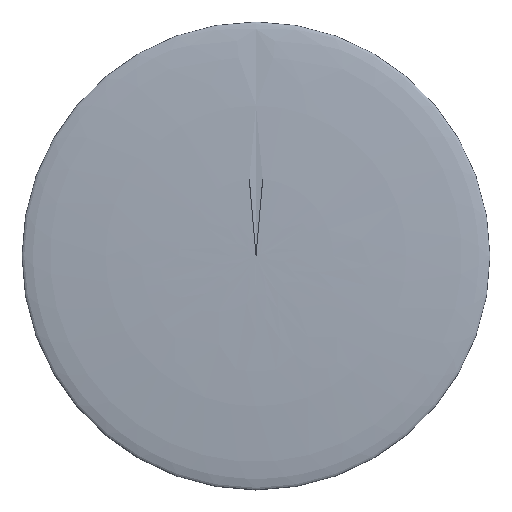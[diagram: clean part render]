
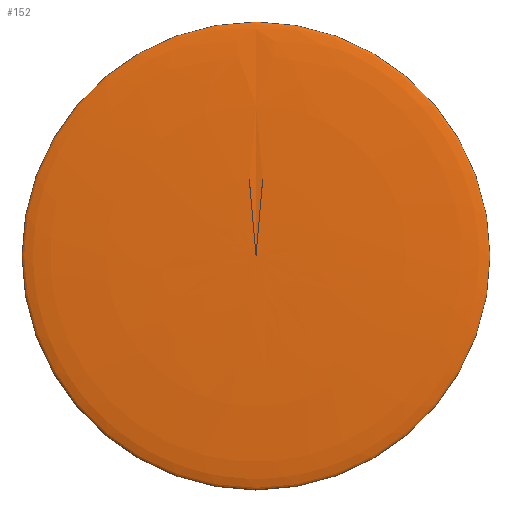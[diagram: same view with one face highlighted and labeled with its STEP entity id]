
A CAD part, top view. The second image highlights one B-rep face of the part: STEP entity #152.
In plain terms, the highlighted face is a revolution surface.
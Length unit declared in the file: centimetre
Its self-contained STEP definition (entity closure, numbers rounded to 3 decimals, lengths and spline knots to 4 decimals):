
#104=ELLIPSE('',#159,1.75,0.1);
#105=(
BOUNDED_CURVE()
B_SPLINE_CURVE(2,(#188,#189,#190),.UNSPECIFIED.,.F.,.U.)
B_SPLINE_CURVE_WITH_KNOTS((3,3),(0.,1.5708),.UNSPECIFIED.)
CURVE()
GEOMETRIC_REPRESENTATION_ITEM()
RATIONAL_B_SPLINE_CURVE((1.,0.707,1.))
REPRESENTATION_ITEM('')
);
#106=AXIS1_PLACEMENT('',#187,#171);
#107=SURFACE_OF_REVOLUTION('',#105,#106);
#112=VERTEX_POINT('',#192);
#113=VERTEX_POINT('',#193);
#117=CIRCLE('',#160,1.75);
#121=EDGE_CURVE('',#112,#113,#104,.T.);
#122=EDGE_CURVE('',#113,#113,#117,.T.);
#127=ORIENTED_EDGE('',*,*,#121,.T.);
#128=ORIENTED_EDGE('',*,*,#122,.F.);
#129=ORIENTED_EDGE('',*,*,#121,.F.);
#137=EDGE_LOOP('',(#127,#128,#129));
#145=FACE_BOUND('',#137,.T.);
#152=ADVANCED_FACE('',(#145),#107,.F.);
#159=AXIS2_PLACEMENT_3D('',#191,#172,#173);
#160=AXIS2_PLACEMENT_3D('',#194,#174,#175);
#171=DIRECTION('',(0.,0.,-1.));
#172=DIRECTION('',(-1.,0.,0.));
#173=DIRECTION('',(0.,1.75,0.));
#174=DIRECTION('',(0.,0.,-1.));
#175=DIRECTION('',(1.75,0.,0.));
#187=CARTESIAN_POINT('',(0.,0.,0.2));
#188=CARTESIAN_POINT('',(0.,1.75,0.2));
#189=CARTESIAN_POINT('',(0.,1.75,0.3));
#190=CARTESIAN_POINT('',(0.,0.,0.3));
#191=CARTESIAN_POINT('',(0.,0.,0.2));
#192=CARTESIAN_POINT('',(0.,0.,0.3));
#193=CARTESIAN_POINT('',(0.,1.75,0.2));
#194=CARTESIAN_POINT('',(0.,0.,0.2));
